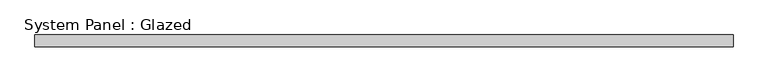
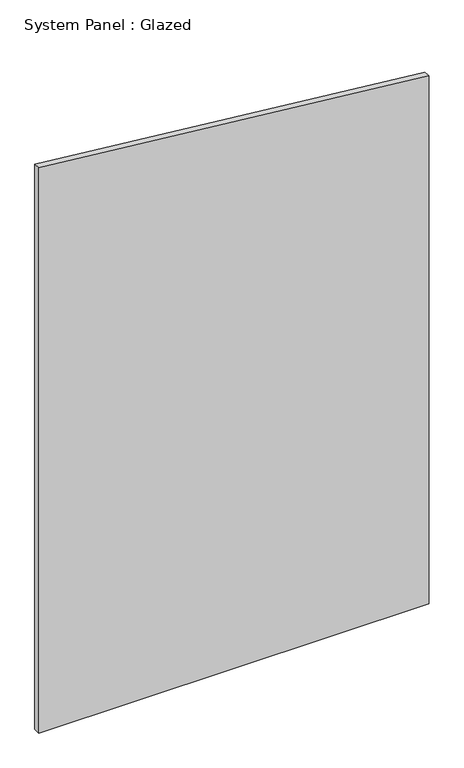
"""IFC4 building model written with IfcOpenShell, lengths in millimetres: plate geometry, System Panel : Glazed."""

from ifc_helpers import new_model, si_unit, frame, origin, place, context, project, spatial, polyline, outline, extrude, source, transform, mapped, element, save


def system_panel_glazed_bfe65734(model_context):
    return source(origin(), model_context, "Body", "SweptSolid", [
        extrude(outline(polyline([(0.0, -735.8695652), (0.0, 735.8695652), (2104.3558118, 735.8695652), (2252.3387905, -735.8695652), (0.0, -735.8695652)])), frame((0.0, 24.5, 0.0), z_axis=(0.0, 1.0, 0.0), x_axis=(0.0, 0.0, 1.0)), (0.0, 0.0, 1.0), 25.0),
    ])


if __name__ == "__main__":
    model = new_model("IFC4")
    model_context = context("Model", 3, world=origin())
    ifc_project = project(units=[si_unit("LENGTHUNIT", "METRE", prefix="MILLI")], contexts=[model_context])
    site = spatial("IfcSite", under=ifc_project)
    building = spatial("IfcBuilding", under=site)
    placement = place(None, origin())
    system_panel_glazed_shape = system_panel_glazed_bfe65734(model_context)
    element("IfcPlate", 1, ObjectType="System Panel : Glazed", at=placement, inside=building, context=model_context, shape_type="MappedRepresentation", body=[
        mapped(system_panel_glazed_shape, transform((0.0, 0.0, 0.0), x_axis=(1.0, 0.0, 0.0), y_axis=(0.0, 1.0, 0.0), z_axis=(0.0, 0.0, 1.0))),
    ])
    save(model, "model.ifc")
